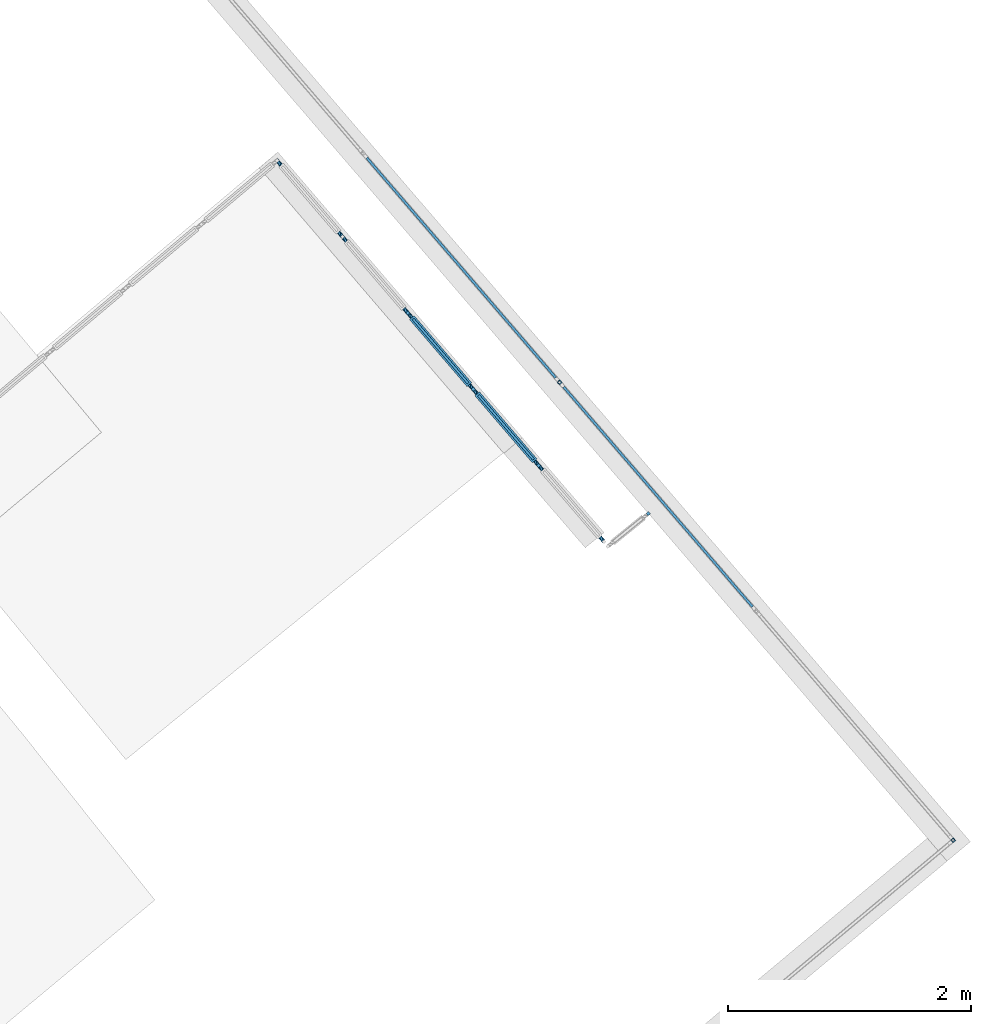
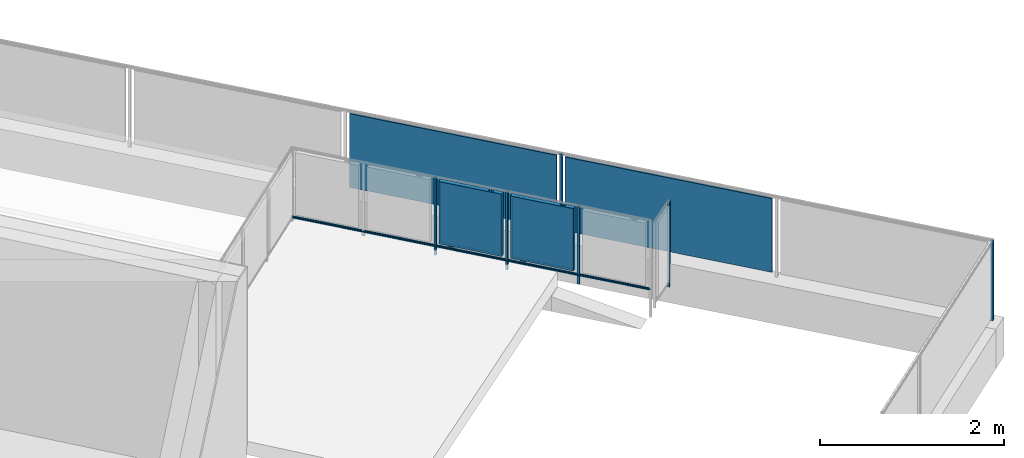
# One storey, part 51 of 75: 13 building element parts, 3 elements without a shape of their own.
"""IFC4 building model written with IfcOpenShell, lengths in metres."""

from ifc_helpers import new_model, entity, si_unit, converted_unit, derived_unit, direction, frame, origin_with_axes, place, context, subcontext, project, spatial, polygons, material, type_object, element, aggregate, save


model = new_model("IFC4")

# Units and contexts
model_context = context("Model", 3, precision=1e-05, world=origin_with_axes(), true_north=direction((0.0, 1.0)))
body_context = subcontext(model_context, "Body", "Model", "MODEL_VIEW")
ifc_project = project(units=[si_unit("LENGTHUNIT", "METRE"), si_unit("AREAUNIT", "SQUARE_METRE"), si_unit("VOLUMEUNIT", "CUBIC_METRE"), converted_unit("PLANEANGLEUNIT", "DEGREE", entity("IfcPlaneAngleMeasure", 0.0174532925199), si_unit("PLANEANGLEUNIT", "RADIAN"), dimensions=[0, 0, 0, 0, 0, 0, 0]), converted_unit("TIMEUNIT", "Year", entity("IfcTimeMeasure", 31556926.0), si_unit("TIMEUNIT", "SECOND"), dimensions=[0, 0, 1, 0, 0, 0, 0]), si_unit("MASSUNIT", "GRAM", prefix="KILO"), si_unit("THERMODYNAMICTEMPERATUREUNIT", "DEGREE_CELSIUS"), si_unit("LUMINOUSINTENSITYUNIT", "LUMEN"), si_unit("ENERGYUNIT", "JOULE", prefix="MEGA"), derived_unit("THERMALCONDUCTANCEUNIT", [(si_unit("POWERUNIT", "WATT"), 1), (si_unit("LENGTHUNIT", "METRE"), -1), (si_unit("THERMODYNAMICTEMPERATUREUNIT", "KELVIN"), -1)]), derived_unit("SPECIFICHEATCAPACITYUNIT", [(si_unit("ENERGYUNIT", "JOULE"), 1), (si_unit("MASSUNIT", "GRAM", prefix="KILO"), -1), (si_unit("THERMODYNAMICTEMPERATUREUNIT", "KELVIN"), -1)]), derived_unit("MASSDENSITYUNIT", [(si_unit("MASSUNIT", "GRAM", prefix="KILO"), 1), (si_unit("VOLUMEUNIT", "CUBIC_METRE"), -1)])], contexts=[model_context])

# Site, building, storey
site_placement = place(None, frame((-0.00153261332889, -0.00661245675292, 0.0), z_axis=(0.0, 0.0, 1.0), x_axis=(1.0, 0.0, 0.0)))
site = spatial("IfcSite", under=ifc_project, at=site_placement, Name="Gelände", CompositionType="ELEMENT")
building_placement = place(site_placement, origin_with_axes())
building = spatial("IfcBuilding", under=site, at=building_placement, Name="Gebäude", CompositionType="ELEMENT")
storey_placement = place(building_placement, frame((0.0, 0.0, -0.22), z_axis=(0.0, 0.0, 1.0), x_axis=(1.0, 0.0, 0.0)))
storey = spatial("IfcBuildingStorey", under=building, at=storey_placement, Name="EG", CompositionType="ELEMENT", Elevation=-0.22)

# Railing, building element parts
railing_type = type_object("IfcRailingType", Name="Geländerart", PredefinedType="NOTDEFINED")
railing_1_placement = place(storey_placement, frame((-12.1608341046, 23.557810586, 0.523948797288), z_axis=(0.0, 0.0, 1.0), x_axis=(1.0, 0.0, 0.0)))
railing_1 = element("IfcRailing", 1, at=railing_1_placement, inside=storey, type_object=railing_type, Name="Geländer - 001", PredefinedType="NOTDEFINED")
ifc_material_1 = material(Name="Aluminium")
building_element_part_1_placement = place(railing_1_placement, origin_with_axes())
building_element_part_1 = element("IfcBuildingElementPart", 2, at=building_element_part_1_placement, material=ifc_material_1, Name="Aluminium", PredefinedType="NOTDEFINED", context=body_context, shape_type="Tessellation", body=[
    polygons([(33.6878191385, -5.45077765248, 0.0), (33.6685809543, -5.42775826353, 0.0), (33.6685809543, -5.42775826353, 1.06), (33.6878191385, -5.45077765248, 1.06), (33.6647997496, -5.4700158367, 0.0), (33.6455615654, -5.44699644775, 0.0), (33.6807762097, -5.45014745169, 0.0), (33.6679507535, -5.43480119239, 0.0), (33.6526044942, -5.44762664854, 0.0), (33.6654299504, -5.46297290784, 0.0), (33.6455615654, -5.44699644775, 1.06), (33.6647997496, -5.4700158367, 1.06), (33.6807762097, -5.45014745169, 1.06), (33.6654299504, -5.46297290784, 1.06), (33.6526044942, -5.44762664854, 1.06), (33.6679507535, -5.43480119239, 1.06)], [[[1, 2, 3, 4]], [[1, 5, 6, 2], [7, 8, 9, 10]], [[2, 6, 11, 3]], [[4, 3, 11, 12], [13, 14, 15, 16]], [[5, 1, 4, 12]], [[6, 5, 12, 11]], [[8, 7, 13, 16]], [[9, 8, 16, 15]], [[10, 9, 15, 14]], [[7, 10, 14, 13]]], closed=True),
])
ifc_material_2 = material(Name="Zaun")
building_element_part_2_placement = place(railing_1_placement, origin_with_axes())
building_element_part_2 = element("IfcBuildingElementPart", 3, at=building_element_part_2_placement, material=ifc_material_2, Name="Zaun", PredefinedType="NOTDEFINED", context=body_context, shape_type="Tessellation", body=[
    polygons([(30.4497052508, -1.72022832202, 0.05), (32.0055274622, -3.53093087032, 0.05), (32.0055274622, -3.53093087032, 1.03), (30.4497052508, -1.72022832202, 1.03), (32.0206968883, -3.5178967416, 0.05), (30.4648746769, -1.7071941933, 0.05), (32.0206968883, -3.5178967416, 1.03), (30.4648746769, -1.7071941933, 1.03)], [[[1, 2, 3, 4]], [[5, 2, 1, 6]], [[7, 3, 2, 5]], [[4, 3, 7, 8]], [[1, 4, 8, 6]], [[7, 5, 6, 8]]], closed=True),
])
building_element_part_3_placement = place(railing_1_placement, origin_with_axes())
building_element_part_3 = element("IfcBuildingElementPart", 4, at=building_element_part_3_placement, material=ifc_material_1, Name="Aluminium", PredefinedType="NOTDEFINED", context=body_context, shape_type="Tessellation", body=[
    polygons([(30.4263061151, -1.65463502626, 0.0), (30.403551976, -1.67418621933, 0.0), (30.403551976, -1.67418621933, 1.06), (30.4263061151, -1.65463502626, 1.06), (30.4458573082, -1.67738916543, 0.0), (30.423103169, -1.6969403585, 0.0), (30.4257722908, -1.66168591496, 0.0), (30.4106028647, -1.67472004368, 0.0), (30.4236369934, -1.68988946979, 0.0), (30.4388064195, -1.67685534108, 0.0), (30.423103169, -1.6969403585, 1.06), (30.4458573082, -1.67738916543, 1.06), (30.4257722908, -1.66168591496, 1.06), (30.4388064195, -1.67685534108, 1.06), (30.4236369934, -1.68988946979, 1.06), (30.4106028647, -1.67472004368, 1.06)], [[[1, 2, 3, 4]], [[1, 5, 6, 2], [7, 8, 9, 10]], [[2, 6, 11, 3]], [[4, 3, 11, 12], [13, 14, 15, 16]], [[5, 1, 4, 12]], [[6, 5, 12, 11]], [[8, 7, 13, 16]], [[9, 8, 16, 15]], [[10, 9, 15, 14]], [[7, 10, 14, 13]]], closed=True),
])
building_element_part_4_placement = place(railing_1_placement, origin_with_axes())
building_element_part_4 = element("IfcBuildingElementPart", 5, at=building_element_part_4_placement, material=ifc_material_2, Name="Zaun", PredefinedType="NOTDEFINED", context=body_context, shape_type="Tessellation", body=[
    polygons([(28.8287123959, 0.166321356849, 0.05), (30.3845346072, -1.64438119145, 0.05), (30.3845346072, -1.64438119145, 1.03), (28.8287123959, 0.166321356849, 1.03), (30.3997040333, -1.63134706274, 0.05), (28.843881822, 0.179355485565, 0.05), (30.3997040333, -1.63134706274, 1.03), (28.843881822, 0.179355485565, 1.03)], [[[1, 2, 3, 4]], [[5, 2, 1, 6]], [[7, 3, 2, 5]], [[4, 3, 7, 8]], [[1, 4, 8, 6]], [[7, 5, 6, 8]]], closed=True),
])
aggregate(railing_1, [building_element_part_1, building_element_part_2, building_element_part_3, building_element_part_4])

# Space
space_placement = place(storey_placement, frame((13.4528825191, 20.3252443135, 0.0), z_axis=(0.0, 0.0, 1.0), x_axis=(-0.766923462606, -0.641738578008, 0.0)))
space = spatial("IfcSpace", under=storey, at=space_placement, CompositionType="ELEMENT", PredefinedType="NOTDEFINED")

# Railing, building element parts
railing_2_placement = place(space_placement, frame((0.00343914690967, -1.03835442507, 0.38), z_axis=(0.0, 0.0, 1.0), x_axis=(-0.766923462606, 0.641738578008, 0.0)))
railing_2 = element("IfcRailing", 6, at=railing_2_placement, inside=space, type_object=railing_type, Name="Geländer - 001", PredefinedType="NOTDEFINED")
building_element_part_5_placement = place(railing_2_placement, origin_with_axes())
building_element_part_5 = element("IfcBuildingElementPart", 7, at=building_element_part_5_placement, material=ifc_material_1, Name="Aluminium", PredefinedType="NOTDEFINED", context=body_context, shape_type="Tessellation", body=[
    polygons([(3.15354671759, 2.61083712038, 0.07), (3.15352079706, 2.61051731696, 0.072604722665), (5.85656260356, -0.54082688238, 0.072604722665), (5.85673557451, -0.54067851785, 0.07), (3.15352079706, 2.61051731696, 0.067395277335), (3.15344382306, 2.60956762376, 0.0648696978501), (3.1533181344, 2.60801689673, 0.0625), (3.15314755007, 2.60591225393, 0.0603581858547), (3.15293725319, 2.60331764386, 0.0585093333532), (3.15269363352, 2.60031190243, 0.0570096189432), (3.15242409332, 2.59698635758, 0.0559046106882), (3.15213682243, 2.59344205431, 0.0552278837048), (3.15184054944, 2.58978668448, 0.055), (3.15154427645, 2.58613131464, 0.0552278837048), (3.15125700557, 2.58258701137, 0.0559046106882), (3.15098746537, 2.57926146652, 0.0570096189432), (3.15074384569, 2.57625572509, 0.0585093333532), (3.15053354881, 2.57366111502, 0.0603581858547), (3.15036296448, 2.57155647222, 0.0625), (3.15023727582, 2.57000574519, 0.0648696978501), (3.15016030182, 2.56905605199, 0.067395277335), (3.15013438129, 2.56873624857, 0.07), (3.15016030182, 2.56905605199, 0.072604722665), (3.15023727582, 2.57000574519, 0.0751303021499), (3.15036296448, 2.57155647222, 0.0775), (3.15053354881, 2.57366111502, 0.0796418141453), (3.15074384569, 2.57625572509, 0.0814906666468), (3.15098746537, 2.57926146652, 0.0829903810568), (3.15125700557, 2.58258701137, 0.0840953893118), (3.15154427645, 2.58613131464, 0.0847721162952), (3.15184054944, 2.58978668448, 0.085), (3.15213682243, 2.59344205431, 0.0847721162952), (3.15242409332, 2.59698635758, 0.0840953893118), (3.15269363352, 2.60031190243, 0.0829903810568), (3.15293725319, 2.60331764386, 0.0814906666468), (3.15314755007, 2.60591225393, 0.0796418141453), (3.1533181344, 2.60801689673, 0.0775), (3.15344382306, 2.60956762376, 0.0751303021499), (5.85604894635, -0.541267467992, 0.0751303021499), (5.8552102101, -0.541986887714, 0.0775), (5.85407187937, -0.542963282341, 0.0796418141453), (5.85266854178, -0.544166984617, 0.0814906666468), (5.85104283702, -0.545561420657, 0.0829903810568), (5.84924416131, -0.547104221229, 0.0840953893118), (5.84732716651, -0.548748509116, 0.0847721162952), (5.84535009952, -0.550444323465, 0.085), (5.84337303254, -0.552140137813, 0.0847721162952), (5.84145603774, -0.553784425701, 0.0840953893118), (5.83965736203, -0.555327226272, 0.0829903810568), (5.83803165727, -0.556721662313, 0.0814906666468), (5.83662831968, -0.557925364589, 0.0796418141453), (5.83548998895, -0.558901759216, 0.0775), (5.83465125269, -0.559621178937, 0.0751303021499), (5.83413759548, -0.560061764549, 0.072604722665), (5.83396462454, -0.56021012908, 0.07), (5.83413759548, -0.560061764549, 0.067395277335), (5.83465125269, -0.559621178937, 0.0648696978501), (5.83548998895, -0.558901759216, 0.0625), (5.83662831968, -0.557925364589, 0.0603581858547), (5.83803165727, -0.556721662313, 0.0585093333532), (5.83965736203, -0.555327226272, 0.0570096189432), (5.84145603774, -0.553784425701, 0.0559046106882), (5.84337303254, -0.552140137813, 0.0552278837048), (5.84535009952, -0.550444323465, 0.055), (5.84732716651, -0.548748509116, 0.0552278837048), (5.84924416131, -0.547104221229, 0.0559046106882), (5.85104283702, -0.545561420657, 0.0570096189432), (5.85266854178, -0.544166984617, 0.0585093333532), (5.85407187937, -0.542963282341, 0.0603581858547), (5.8552102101, -0.541986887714, 0.0625), (5.85604894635, -0.541267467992, 0.0648696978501), (5.85656260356, -0.54082688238, 0.067395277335)], [[[1, 2, 3, 4]], [[1, 5, 6, 7, 8, 9, 10, 11, 12, 13, 14, 15, 16, 17, 18, 19, 20, 21, 22, 23, 24, 25, 26, 27, 28, 29, 30, 31, 32, 33, 34, 35, 36, 37, 38, 2]], [[2, 38, 39, 3]], [[4, 3, 39, 40, 41, 42, 43, 44, 45, 46, 47, 48, 49, 50, 51, 52, 53, 54, 55, 56, 57, 58, 59, 60, 61, 62, 63, 64, 65, 66, 67, 68, 69, 70, 71, 72]], [[5, 1, 4, 72]], [[6, 5, 72, 71]], [[7, 6, 71, 70]], [[8, 7, 70, 69]], [[9, 8, 69, 68]], [[10, 9, 68, 67]], [[11, 10, 67, 66]], [[12, 11, 66, 65]], [[13, 12, 65, 64]], [[14, 13, 64, 63]], [[15, 14, 63, 62]], [[16, 15, 62, 61]], [[17, 16, 61, 60]], [[18, 17, 60, 59]], [[19, 18, 59, 58]], [[20, 19, 58, 57]], [[21, 20, 57, 56]], [[22, 21, 56, 55]], [[23, 22, 55, 54]], [[24, 23, 54, 53]], [[25, 24, 53, 52]], [[26, 25, 52, 51]], [[27, 26, 51, 50]], [[28, 27, 50, 49]], [[29, 28, 49, 48]], [[30, 29, 48, 47]], [[31, 30, 47, 46]], [[32, 31, 46, 45]], [[33, 32, 45, 44]], [[34, 33, 44, 43]], [[35, 34, 43, 42]], [[36, 35, 42, 41]], [[37, 36, 41, 40]], [[38, 37, 40, 39]]], closed=True),
])
building_element_part_6_placement = place(railing_2_placement, origin_with_axes())
building_element_part_6 = element("IfcBuildingElementPart", 8, at=building_element_part_6_placement, material=ifc_material_1, Name="Aluminium", PredefinedType="NOTDEFINED", context=body_context, shape_type="Tessellation", body=[
    polygons([(4.227894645, 1.31606821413, -0.05), (4.24687043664, 1.33234455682, -0.05), (4.24687043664, 1.33234455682, 0.98), (4.227894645, 1.31606821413, 0.98), (4.21161830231, 1.33504400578, -0.05), (4.23059409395, 1.35132034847, -0.05), (4.23059409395, 1.35132034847, 0.98), (4.21161830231, 1.33504400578, 0.98)], [[[1, 2, 3, 4]], [[1, 5, 6, 2]], [[2, 6, 7, 3]], [[4, 3, 7, 8]], [[5, 1, 4, 8]], [[6, 5, 8, 7]]], closed=True),
])
ifc_material_3 = material(Name="Profilit")
building_element_part_7_placement = place(railing_2_placement, origin_with_axes())
building_element_part_7 = element("IfcBuildingElementPart", 9, at=building_element_part_7_placement, material=ifc_material_3, Name="Profilit", PredefinedType="NOTDEFINED", context=body_context, shape_type="Tessellation", body=[
    polygons([(4.73321810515, 0.761495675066, 0.135), (4.27915317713, 1.2908677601, 0.135), (4.27915317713, 1.2908677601, 0.935), (4.73321810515, 0.761495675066, 0.935), (4.26397254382, 1.27784668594, 0.135), (4.71803747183, 0.748474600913, 0.135), (4.26397254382, 1.27784668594, 0.935), (4.71803747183, 0.748474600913, 0.935)], [[[1, 2, 3, 4]], [[5, 2, 1, 6]], [[7, 3, 2, 5]], [[4, 3, 7, 8]], [[1, 4, 8, 6]], [[7, 5, 6, 8]]], closed=True),
])
building_element_part_8_placement = place(railing_2_placement, origin_with_axes())
building_element_part_8 = element("IfcBuildingElementPart", 10, at=building_element_part_8_placement, material=ifc_material_1, Name="Aluminium", PredefinedType="NOTDEFINED", context=body_context, shape_type="Tessellation", body=[
    polygons([(4.32880000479, 1.2214671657, 0.12), (4.37437376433, 1.16833494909, 0.12), (4.37437376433, 1.16833494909, 0.095), (4.32880000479, 1.2214671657, 0.095), (4.32500484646, 1.21821189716, 0.12), (4.370578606, 1.16507968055, 0.12), (4.370578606, 1.16507968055, 0.095), (4.32500484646, 1.21821189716, 0.095)], [[[1, 2, 3, 4]], [[5, 6, 2, 1]], [[2, 6, 7, 3]], [[4, 3, 7, 8]], [[1, 4, 8, 5]], [[8, 7, 6, 5]]], closed=True),
    polygons([(4.6721858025, 0.821130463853, 0.95), (4.62661204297, 0.87426268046, 0.95), (4.62661204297, 0.87426268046, 0.955), (4.6721858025, 0.821130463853, 0.955), (4.66839064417, 0.817875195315, 0.95), (4.62281688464, 0.871007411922, 0.95), (4.62281688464, 0.871007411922, 0.955), (4.66839064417, 0.817875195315, 0.955)], [[[1, 2, 3, 4]], [[5, 6, 2, 1]], [[2, 6, 7, 3]], [[4, 3, 7, 8]], [[1, 4, 8, 5]], [[8, 7, 6, 5]]], closed=True),
    polygons([(4.24282126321, 1.27946635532, 0.12), (4.2807728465, 1.3120190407, 0.12), (4.75436938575, 0.759876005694, 0.12), (4.71641780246, 0.72732332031, 0.12), (4.25584233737, 1.264285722, 0.14), (4.26722781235, 1.27405152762, 0.14), (4.26397254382, 1.27784668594, 0.135), (4.27915317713, 1.2908677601, 0.135), (4.28240844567, 1.28707260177, 0.14), (4.29379392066, 1.29683840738, 0.14), (4.7413483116, 0.77505663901, 0.14), (4.7413483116, 0.77505663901, 0.93), (4.29379392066, 1.29683840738, 0.93), (4.29379392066, 1.29683840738, 0.14), (4.2807728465, 1.3120190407, 0.12), (4.2807728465, 1.3120190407, 0.95), (4.75436938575, 0.759876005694, 0.95), (4.71641780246, 0.72732332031, 0.95), (4.24282126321, 1.27946635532, 0.95), (4.24282126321, 1.27946635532, 0.12), (4.25584233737, 1.264285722, 0.14), (4.25584233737, 1.264285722, 0.93), (4.70339672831, 0.742503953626, 0.93), (4.70339672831, 0.742503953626, 0.14), (4.7147822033, 0.752269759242, 0.14), (4.7147822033, 0.752269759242, 0.93), (4.26722781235, 1.27405152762, 0.93), (4.26722781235, 1.27405152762, 0.14), (4.26397254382, 1.27784668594, 0.135), (4.26397254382, 1.27784668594, 0.935), (4.71803747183, 0.748474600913, 0.935), (4.71803747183, 0.748474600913, 0.135), (4.73321810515, 0.761495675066, 0.135), (4.73321810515, 0.761495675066, 0.935), (4.27915317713, 1.2908677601, 0.935), (4.27915317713, 1.2908677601, 0.135), (4.28240844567, 1.28707260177, 0.14), (4.28240844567, 1.28707260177, 0.93), (4.72996283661, 0.765290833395, 0.93), (4.72996283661, 0.765290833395, 0.14)], [[[1, 2, 3, 4]], [[1, 5, 6, 7, 8, 9, 10, 2]], [[2, 10, 11, 12, 13, 14, 15, 16, 17, 3]], [[4, 3, 17, 18]], [[5, 1, 4, 18, 19, 20, 21, 22, 23, 24]], [[6, 5, 24, 25]], [[7, 6, 25, 26, 27, 28, 29, 30, 31, 32]], [[8, 7, 32, 33]], [[9, 8, 33, 34, 35, 36, 37, 38, 39, 40]], [[10, 9, 40, 11]], [[11, 40, 39, 12]], [[12, 39, 38, 13]], [[13, 38, 37, 14]], [[20, 15, 14, 37, 36, 29, 28, 21]], [[19, 16, 15, 20]], [[18, 17, 16, 19]], [[27, 22, 21, 28]], [[26, 23, 22, 27]], [[25, 24, 23, 26]], [[35, 30, 29, 36]], [[34, 31, 30, 35]], [[33, 32, 31, 34]]], closed=True),
])
building_element_part_9_placement = place(railing_2_placement, origin_with_axes())
building_element_part_9 = element("IfcBuildingElementPart", 11, at=building_element_part_9_placement, material=ifc_material_1, Name="Aluminium", PredefinedType="NOTDEFINED", context=body_context, shape_type="Tessellation", body=[
    polygons([(4.76659655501, 0.688022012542, -0.05), (4.78557234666, 0.704298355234, -0.05), (4.78557234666, 0.704298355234, 0.98), (4.76659655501, 0.688022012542, 0.98), (4.75032021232, 0.706997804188, -0.05), (4.76929600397, 0.72327414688, -0.05), (4.76929600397, 0.72327414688, 0.98), (4.75032021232, 0.706997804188, 0.98)], [[[1, 2, 3, 4]], [[1, 5, 6, 2]], [[2, 6, 7, 3]], [[4, 3, 7, 8]], [[5, 1, 4, 8]], [[6, 5, 8, 7]]], closed=True),
])
building_element_part_10_placement = place(railing_2_placement, origin_with_axes())
building_element_part_10 = element("IfcBuildingElementPart", 12, at=building_element_part_10_placement, material=ifc_material_3, Name="Profilit", PredefinedType="NOTDEFINED", context=body_context, shape_type="Tessellation", body=[
    polygons([(5.27192001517, 0.133449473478, 0.135), (4.81785508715, 0.66282155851, 0.135), (4.81785508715, 0.66282155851, 0.935), (5.27192001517, 0.133449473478, 0.935), (4.80267445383, 0.649800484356, 0.135), (5.25673938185, 0.120428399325, 0.135), (4.80267445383, 0.649800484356, 0.935), (5.25673938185, 0.120428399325, 0.935)], [[[1, 2, 3, 4]], [[5, 2, 1, 6]], [[7, 3, 2, 5]], [[4, 3, 7, 8]], [[1, 4, 8, 6]], [[7, 5, 6, 8]]], closed=True),
])
building_element_part_11_placement = place(railing_2_placement, origin_with_axes())
building_element_part_11 = element("IfcBuildingElementPart", 13, at=building_element_part_11_placement, material=ifc_material_1, Name="Aluminium", PredefinedType="NOTDEFINED", context=body_context, shape_type="Tessellation", body=[
    polygons([(4.86750191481, 0.593420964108, 0.12), (4.91307567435, 0.5402887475, 0.12), (4.91307567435, 0.5402887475, 0.095), (4.86750191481, 0.593420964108, 0.095), (4.86370675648, 0.590165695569, 0.12), (4.90928051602, 0.537033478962, 0.12), (4.90928051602, 0.537033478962, 0.095), (4.86370675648, 0.590165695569, 0.095)], [[[1, 2, 3, 4]], [[5, 6, 2, 1]], [[2, 6, 7, 3]], [[4, 3, 7, 8]], [[1, 4, 8, 5]], [[8, 7, 6, 5]]], closed=True),
    polygons([(5.21088771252, 0.193084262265, 0.95), (5.16531395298, 0.246216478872, 0.95), (5.16531395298, 0.246216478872, 0.955), (5.21088771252, 0.193084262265, 0.955), (5.20709255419, 0.189828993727, 0.95), (5.16151879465, 0.242961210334, 0.95), (5.16151879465, 0.242961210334, 0.955), (5.20709255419, 0.189828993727, 0.955)], [[[1, 2, 3, 4]], [[5, 6, 2, 1]], [[2, 6, 7, 3]], [[4, 3, 7, 8]], [[1, 4, 8, 5]], [[8, 7, 6, 5]]], closed=True),
    polygons([(4.78152317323, 0.651420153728, 0.12), (4.81947475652, 0.683972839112, 0.12), (5.29307129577, 0.131829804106, 0.12), (5.25511971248, 0.0992771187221, 0.12), (4.79454424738, 0.636239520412, 0.14), (4.80592972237, 0.646005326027, 0.14), (4.80267445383, 0.649800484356, 0.135), (4.81785508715, 0.66282155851, 0.135), (4.82111035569, 0.659026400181, 0.14), (4.83249583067, 0.668792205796, 0.14), (5.28005022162, 0.147010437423, 0.14), (5.28005022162, 0.147010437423, 0.93), (4.83249583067, 0.668792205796, 0.93), (4.83249583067, 0.668792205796, 0.14), (4.81947475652, 0.683972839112, 0.12), (4.81947475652, 0.683972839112, 0.95), (5.29307129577, 0.131829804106, 0.95), (5.25511971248, 0.0992771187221, 0.95), (4.78152317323, 0.651420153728, 0.95), (4.78152317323, 0.651420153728, 0.12), (4.79454424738, 0.636239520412, 0.14), (4.79454424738, 0.636239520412, 0.93), (5.24209863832, 0.114457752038, 0.93), (5.24209863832, 0.114457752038, 0.14), (5.25348411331, 0.124223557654, 0.14), (5.25348411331, 0.124223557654, 0.93), (4.80592972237, 0.646005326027, 0.93), (4.80592972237, 0.646005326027, 0.14), (4.80267445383, 0.649800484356, 0.135), (4.80267445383, 0.649800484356, 0.935), (5.25673938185, 0.120428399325, 0.935), (5.25673938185, 0.120428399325, 0.135), (5.27192001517, 0.133449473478, 0.135), (5.27192001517, 0.133449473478, 0.935), (4.81785508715, 0.66282155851, 0.935), (4.81785508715, 0.66282155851, 0.135), (4.82111035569, 0.659026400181, 0.14), (4.82111035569, 0.659026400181, 0.93), (5.26866474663, 0.137244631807, 0.93), (5.26866474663, 0.137244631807, 0.14)], [[[1, 2, 3, 4]], [[1, 5, 6, 7, 8, 9, 10, 2]], [[2, 10, 11, 12, 13, 14, 15, 16, 17, 3]], [[4, 3, 17, 18]], [[5, 1, 4, 18, 19, 20, 21, 22, 23, 24]], [[6, 5, 24, 25]], [[7, 6, 25, 26, 27, 28, 29, 30, 31, 32]], [[8, 7, 32, 33]], [[9, 8, 33, 34, 35, 36, 37, 38, 39, 40]], [[10, 9, 40, 11]], [[11, 40, 39, 12]], [[12, 39, 38, 13]], [[13, 38, 37, 14]], [[20, 15, 14, 37, 36, 29, 28, 21]], [[19, 16, 15, 20]], [[18, 17, 16, 19]], [[27, 22, 21, 28]], [[26, 23, 22, 27]], [[25, 24, 23, 26]], [[35, 30, 29, 36]], [[34, 31, 30, 35]], [[33, 32, 31, 34]]], closed=True),
])
building_element_part_12_placement = place(railing_2_placement, origin_with_axes())
building_element_part_12 = element("IfcBuildingElementPart", 14, at=building_element_part_12_placement, material=ifc_material_1, Name="Aluminium", PredefinedType="NOTDEFINED", context=body_context, shape_type="Tessellation", body=[
    polygons([(5.30529846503, 0.0599758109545, -0.05), (5.32427425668, 0.0762521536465, -0.05), (5.32427425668, 0.0762521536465, 0.98), (5.30529846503, 0.0599758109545, 0.98), (5.28902212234, 0.0789516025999, -0.05), (5.30799791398, 0.095227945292, -0.05), (5.30799791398, 0.095227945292, 0.98), (5.28902212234, 0.0789516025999, 0.98)], [[[1, 2, 3, 4]], [[1, 5, 6, 2]], [[2, 6, 7, 3]], [[4, 3, 7, 8]], [[5, 1, 4, 8]], [[6, 5, 8, 7]]], closed=True),
])
aggregate(railing_2, [building_element_part_5, building_element_part_6, building_element_part_7, building_element_part_8, building_element_part_9, building_element_part_10, building_element_part_11, building_element_part_12])

# Railing, building element part
railing_3_placement = place(storey_placement, frame((18.629242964, 20.5689313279, 0.215679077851), z_axis=(0.0, 0.0, 1.0), x_axis=(1.0, 0.0, 0.0)))
railing_3 = element("IfcRailing", 15, at=railing_3_placement, inside=storey, type_object=railing_type, Name="Geländer - 001", PredefinedType="NOTDEFINED")
building_element_part_13_placement = place(railing_3_placement, origin_with_axes())
building_element_part_13 = element("IfcBuildingElementPart", 16, at=building_element_part_13_placement, material=ifc_material_1, Name="Aluminium", PredefinedType="NOTDEFINED", context=body_context, shape_type="Tessellation", body=[
    polygons([(0.382185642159, 0.229321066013, 0.0), (0.366443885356, 0.248742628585, 0.0), (0.366443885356, 0.248742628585, 1.14), (0.382185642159, 0.229321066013, 1.14), (0.362764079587, 0.213579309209, 0.0), (0.347022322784, 0.233000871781, 0.0), (0.347022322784, 0.233000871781, 1.14), (0.362764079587, 0.213579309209, 1.14)], [[[1, 2, 3, 4]], [[1, 5, 6, 2]], [[2, 6, 7, 3]], [[4, 3, 7, 8]], [[5, 1, 4, 8]], [[6, 5, 8, 7]]], closed=True),
])
aggregate(railing_3, [building_element_part_13])

save(model, "model.ifc")
